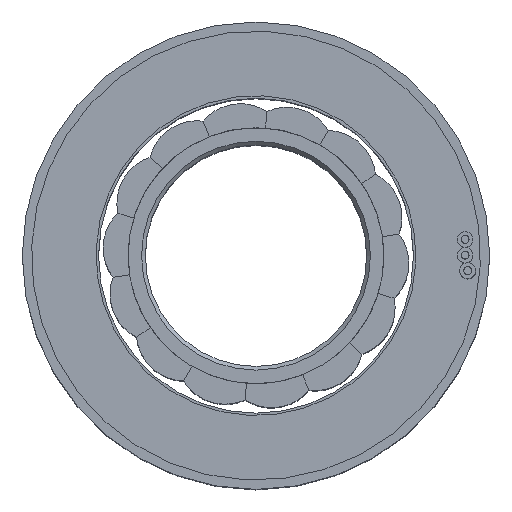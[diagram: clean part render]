
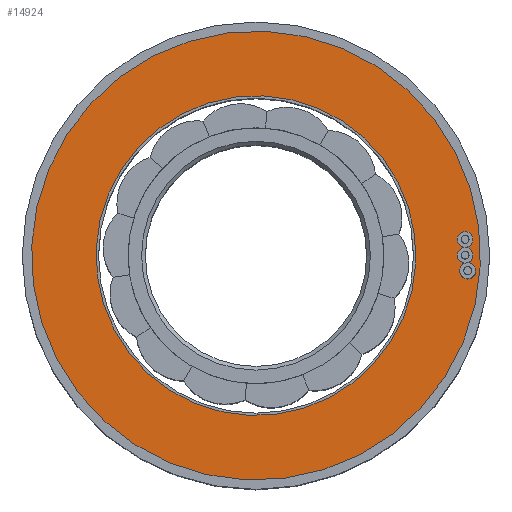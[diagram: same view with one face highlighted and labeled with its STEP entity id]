
A CAD part, top view. The second image highlights one B-rep face of the part: STEP entity #14924.
In plain terms, the highlighted planar face has unit normal (0, 0, 1).
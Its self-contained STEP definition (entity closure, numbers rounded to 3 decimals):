
#507 = DIRECTION ( 'NONE',  ( -0.539, -0.842, 0. ) ) ;
#2396 = AXIS2_PLACEMENT_3D ( 'NONE', #7207, #8650, #6905 ) ;
#2450 = PLANE ( 'NONE',  #2396 ) ;
#4936 = EDGE_CURVE ( 'NONE', #13366, #13366, #8333, .T. ) ;
#5608 = ORIENTED_EDGE ( 'NONE', *, *, #4936, .F. ) ;
#6593 = CARTESIAN_POINT ( 'NONE',  ( 0., 0., 31.4 ) ) ;
#6905 = DIRECTION ( 'NONE',  ( -0.539, -0.842, 0. ) ) ;
#7207 = CARTESIAN_POINT ( 'NONE',  ( 0., 0., 31.4 ) ) ;
#7299 = FACE_OUTER_BOUND ( 'NONE', #19812, .T. ) ;
#7492 = CARTESIAN_POINT ( 'NONE',  ( -9.844, -15.367, 31.4 ) ) ;
#8333 = CIRCLE ( 'NONE', #14464, 13. ) ;
#8492 = CIRCLE ( 'NONE', #17786, 18.25 ) ;
#8650 = DIRECTION ( 'NONE',  ( 0., 0., 1. ) ) ;
#8828 = CARTESIAN_POINT ( 'NONE',  ( -7.012, -10.947, 31.4 ) ) ;
#10060 = FACE_BOUND ( 'NONE', #13724, .T. ) ;
#10463 = ORIENTED_EDGE ( 'NONE', *, *, #18413, .T. ) ;
#11253 = DIRECTION ( 'NONE',  ( -0.539, -0.842, 0. ) ) ;
#11357 = DIRECTION ( 'NONE',  ( 0., 0., 1. ) ) ;
#12366 = VERTEX_POINT ( 'NONE', #7492 ) ;
#13366 = VERTEX_POINT ( 'NONE', #8828 ) ;
#13724 = EDGE_LOOP ( 'NONE', ( #5608 ) ) ;
#14464 = AXIS2_PLACEMENT_3D ( 'NONE', #6593, #14474, #507 ) ;
#14474 = DIRECTION ( 'NONE',  ( 0., 0., 1. ) ) ;
#14924 = ADVANCED_FACE ( 'NONE', ( #7299, #10060 ), #2450, .T. ) ;
#15858 = CARTESIAN_POINT ( 'NONE',  ( 0., 0., 31.4 ) ) ;
#17786 = AXIS2_PLACEMENT_3D ( 'NONE', #15858, #11357, #11253 ) ;
#18413 = EDGE_CURVE ( 'NONE', #12366, #12366, #8492, .T. ) ;
#19812 = EDGE_LOOP ( 'NONE', ( #10463 ) ) ;
